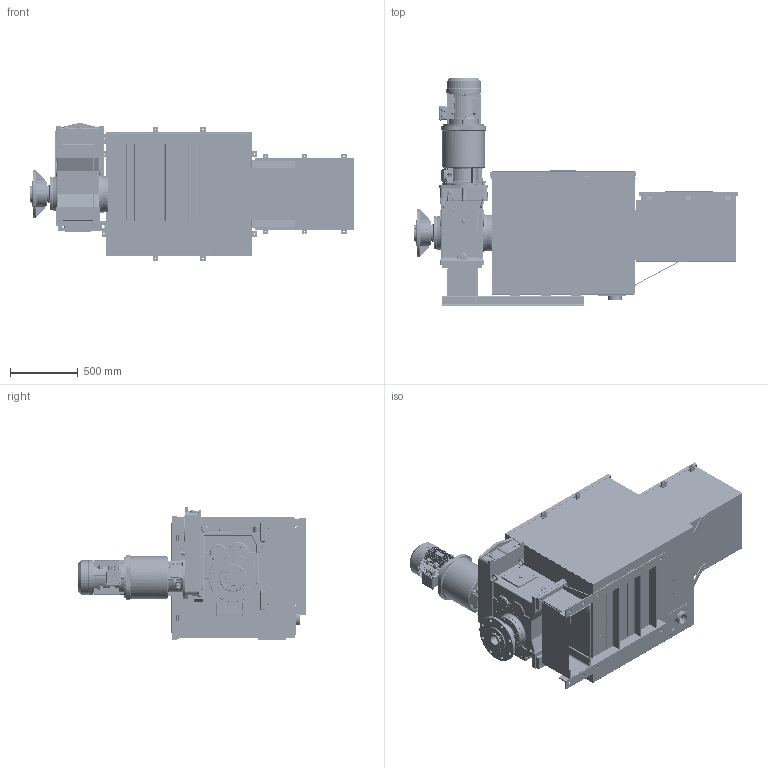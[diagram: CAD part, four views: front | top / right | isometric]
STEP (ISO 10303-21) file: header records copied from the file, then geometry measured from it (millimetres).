
FILE_DESCRIPTION(/* description */ (''),/* implementation_level */ '2;1');
FILE_NAME(/* name */ 'K:\NEMANJA\CABLE REEL\CABLE REEL DA\0700-6\07006002 DAPR-MCGBSR\STEP\75940.stp',/* time_stamp */ '2017-03-16T12:45:21+01:00',/* author */ ('milman01'),/* organization */ ('Hillmar Industries Ltd.'),/* preprocessor_version */ 'ST-DEVELOPER v16.1',/* originating_system */ 'Autodesk Inventor 2016',/* authorisation */ '');
FILE_SCHEMA (('AUTOMOTIVE_DESIGN { 1 0 10303 214 3 1 1 }'));
Products named in the file (1): 75940
Bounding box: 2395.67 x 1691.71 x 1016.97 mm (x, y, z)
Volume: 90359348 mm3; surface area: 25299401.2 mm2
Topology: 19 solids, 19 shells, 7386 faces, 19975 edges, 12836 vertices
Faces by surface type: plane 4076, cylinder 1812, bspline 755, cone 417, torus 260, sphere 66
Full cylindrical faces by diameter (mm): 3 x4, 7 x3, 8 x3, 8.376 x16, 8.731 x1, 10 x35, 10.106 x89, 11 x44, 12 x12, 12.5 x6, 13 x41, 13.5 x12, 14 x32, 15 x8, 17.294 x4, 18 x3, 18.256 x3, 18.38 x3, 20 x24, 20.5 x4, 21.336 x1, 22 x20, 22.225 x1, 22.3 x3, 22.631 x1, 23.812 x1, 24.917 x1, 24.918 x2, 25 x7, 28 x5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
Entity records: 253074 total; most frequent: CARTESIAN_POINT 67546, ORIENTED_EDGE 37612, DIRECTION 34543, EDGE_CURVE 18785, VERTEX_POINT 12428, AXIS2_PLACEMENT_3D 11716, LINE 11111, VECTOR 11111
